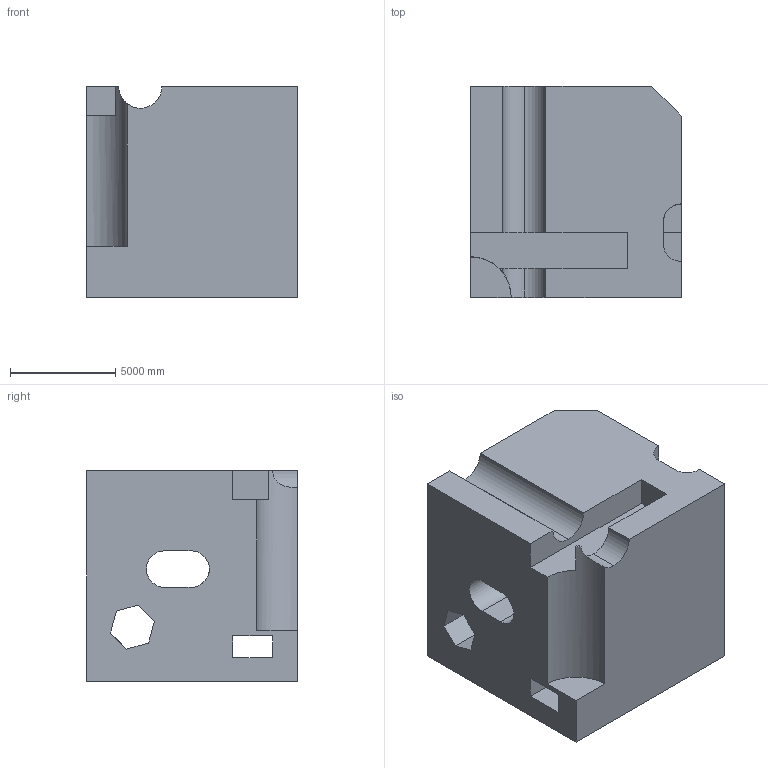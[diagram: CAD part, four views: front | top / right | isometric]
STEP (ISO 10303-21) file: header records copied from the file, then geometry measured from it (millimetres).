
FILE_DESCRIPTION (( 'STEP AP203' ), '1' );
FILE_NAME ('914.STEP', '2022-08-05T15:28:32', ( 'user' ), ( '' ), 'SwSTEP 2.0', 'SolidWorks 2021', '' );
FILE_SCHEMA (( 'CONFIG_CONTROL_DESIGN' ));
Length unit declared in the file: centimetre
Products named in the file (1): 914
Bounding box: 10000 x 10000 x 10000 mm (x, y, z)
Volume: 810613866543.6 mm3; surface area: 835873579 mm2
Topology: 1 solids, 1 shells, 47 faces, 135 edges, 90 vertices
Faces by surface type: plane 34, cylinder 13
Entity records: 1822 total; most frequent: CARTESIAN_POINT 473, ORIENTED_EDGE 270, DIRECTION 257, EDGE_CURVE 135, LINE 105, VECTOR 105, VERTEX_POINT 90, AXIS2_PLACEMENT_3D 76
